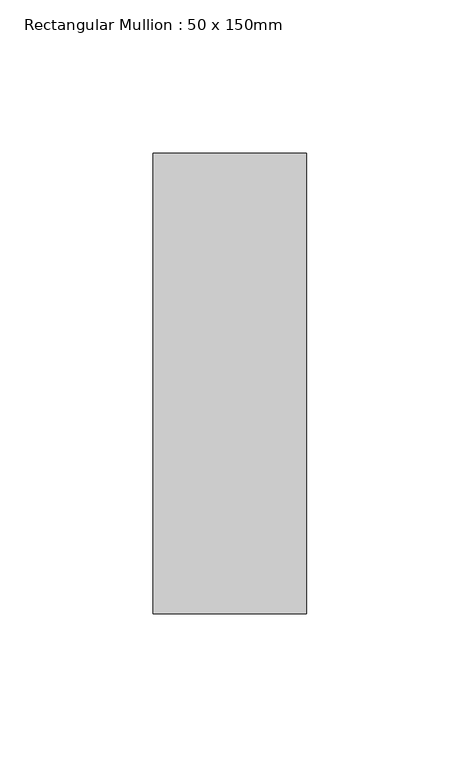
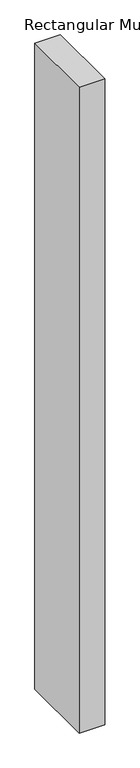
"""IFC4 building model written with IfcOpenShell, lengths in millimetres: member geometry, Rectangular Mullion : 50 x 150mm."""

from ifc_helpers import new_model, si_unit, frame, origin, place, context, project, spatial, polyline, outline, extrude, source, transform, mapped, element, save


def rectangular_mullion_50_x_150mm_bb4106bb(model_context):
    return source(origin(), model_context, "Body", "SweptSolid", [
        extrude(outline(polyline([(0.0, 75.0), (0.0, -75.0), (-50.0, -75.0), (-50.0, 75.0), (0.0, 75.0)])), frame((0.0, 0.0, -1336.6666667), z_axis=(0.0, 0.0, 1.0), x_axis=(1.0, 0.0, 0.0)), (0.0, 0.0, 1.0), 1336.6666667),
    ])


if __name__ == "__main__":
    model = new_model("IFC4")
    model_context = context("Model", 3, world=origin())
    ifc_project = project(units=[si_unit("LENGTHUNIT", "METRE", prefix="MILLI")], contexts=[model_context])
    site = spatial("IfcSite", under=ifc_project)
    building = spatial("IfcBuilding", under=site)
    placement = place(None, origin())
    rectangular_mullion_50_x_150mm_shape = rectangular_mullion_50_x_150mm_bb4106bb(model_context)
    element("IfcMember", 1, ObjectType="Rectangular Mullion : 50 x 150mm", at=placement, inside=building, context=model_context, shape_type="MappedRepresentation", body=[
        mapped(rectangular_mullion_50_x_150mm_shape, transform((0.0, 0.0, 0.0), x_axis=(1.0, 0.0, 0.0), y_axis=(0.0, 1.0, 0.0), z_axis=(0.0, 0.0, 1.0))),
    ])
    save(model, "model.ifc")
